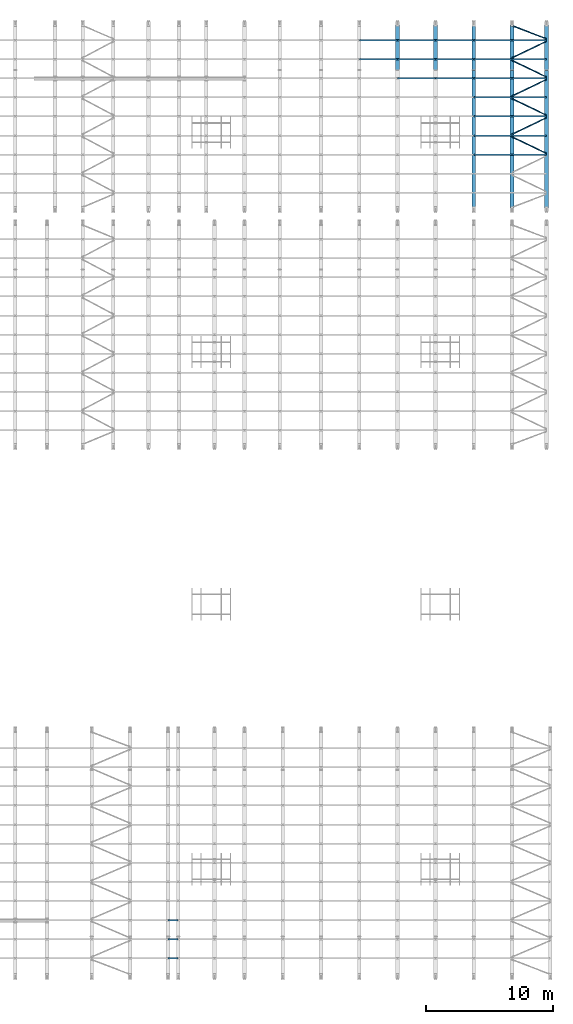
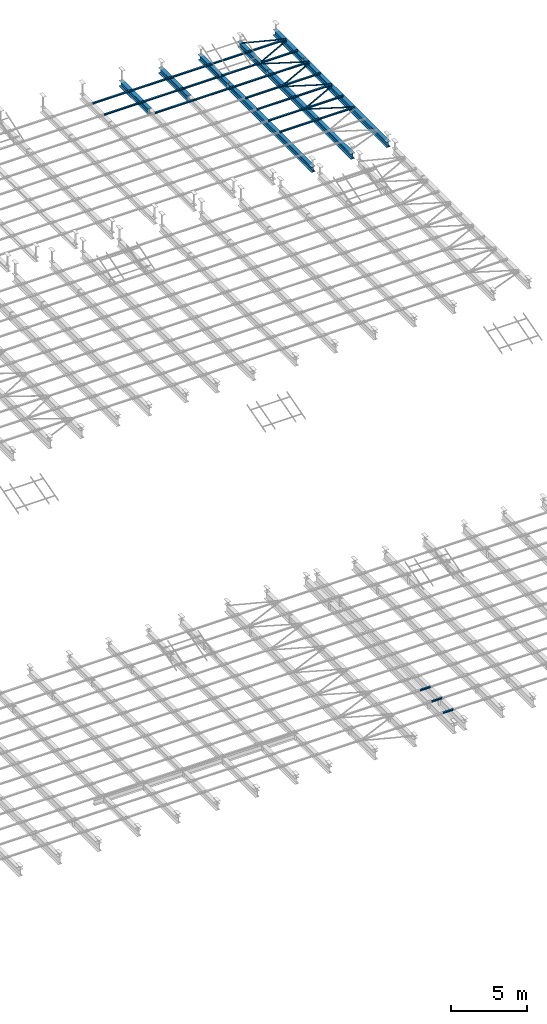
# One storey, part 86 of 139: 40 beams.
"""IFC2X3 building model written with IfcOpenShell, lengths in metres."""

import ifcopenshell
import ifcopenshell.guid

model = None  # the IFC model being written
_history = None  # IfcOwnerHistory: only IFC2X3 demands one
_inside = {}  # id of a spatial element -> (the spatial element, [elements in it])
_under = {}  # id of a project, library or spatial element -> (it, [spatial elements below it])
_declared = {}  # id of a project -> (the project, [libraries it declares])
_typed = {}  # id of a type object -> (the type object, [elements of that type])
_made_of = {}  # id of a material, layer set ... -> (it, [elements and type objects made of it])


def new_model(schema):
    """Start an empty IFC model of exactly this schema.

    Asked for "IFC4X3", IfcOpenShell would pick the latest addendum, in which some entities
    have other attributes; the version numbers below select the first issue.
    IFC2X3 requires an IfcOwnerHistory on every rooted entity: one is made here for all.
    """
    global model, _history
    if schema == "IFC4X3":
        model = ifcopenshell.file(schema_version=(4, 3, 0, 0))
    else:
        model = ifcopenshell.file(schema=schema)
    _inside.clear()
    _under.clear()
    _declared.clear()
    _typed.clear()
    _made_of.clear()
    _history = None
    if model.schema == "IFC2X3":
        org = make("IfcOrganization", Name="unknown")
        user = make(
            "IfcPersonAndOrganization",
            ThePerson=make("IfcPerson", FamilyName="unknown"),
            TheOrganization=org,
        )
        app = make(
            "IfcApplication",
            ApplicationDeveloper=org,
            Version="unknown",
            ApplicationFullName="unknown",
            ApplicationIdentifier="unknown",
        )
        _history = make(
            "IfcOwnerHistory",
            OwningUser=user,
            OwningApplication=app,
            ChangeAction="ADDED",
            CreationDate=0,
        )
    return model


def make(cls, **values):
    """One entity of the class cls with the attributes given. An attribute that is None is left unset."""
    return model.create_entity(
        cls, **{name: value for name, value in values.items() if value is not None}
    )


def entity(cls, *values):
    """Any entity or typed value of the class cls, its attributes in the order of the schema. None: left unset."""
    e = model.create_entity(cls)
    for i, value in enumerate(values):
        if value is not None:
            e[i] = value
    return e


def rooted(cls, **values):
    """An entity with a GlobalId (a new one), such as an element, a storey or a relation."""
    return make(cls, GlobalId=ifcopenshell.guid.new(), OwnerHistory=_history, **values)


def si_unit(unit_type, name, prefix=None):
    """IfcSIUnit, for example si_unit("LENGTHUNIT", "METRE", prefix="MILLI")."""
    return make("IfcSIUnit", UnitType=unit_type, Prefix=prefix, Name=name)


def converted_unit(unit_type, name, factor, base, dimensions=None, offset=None):
    """IfcConversionBasedUnit, such as the inch: factor (a typed value) times the base unit."""
    return make(
        "IfcConversionBasedUnit"
        if offset is None
        else "IfcConversionBasedUnitWithOffset",
        ConversionOffset=offset,
        Dimensions=None
        if dimensions is None
        else entity("IfcDimensionalExponents", *dimensions),
        UnitType=unit_type,
        Name=name,
        ConversionFactor=make(
            "IfcMeasureWithUnit", ValueComponent=factor, UnitComponent=base
        ),
    )


def derived_unit(unit_type, elements):
    """IfcDerivedUnit: a product of units, each with its exponent."""
    return make(
        "IfcDerivedUnit",
        Elements=[
            make("IfcDerivedUnitElement", Unit=unit, Exponent=power)
            for unit, power in elements
        ],
        UnitType=unit_type,
    )


def assignment(units):
    """IfcUnitAssignment: the units of a project."""
    return None if units is None else make("IfcUnitAssignment", Units=units)


def point(xyz):
    """IfcCartesianPoint."""
    return None if xyz is None else make("IfcCartesianPoint", Coordinates=xyz)


def direction(xyz):
    """IfcDirection."""
    return None if xyz is None else make("IfcDirection", DirectionRatios=xyz)


def frame(location, z_axis=None, x_axis=None):
    """IfcAxis2Placement3D, a coordinate frame: its origin and axes. An axis left out is left unset."""
    return make(
        "IfcAxis2Placement3D",
        Location=point(location),
        Axis=direction(z_axis),
        RefDirection=direction(x_axis),
    )


def origin():
    """The frame at (0, 0, 0) with its axes left unset."""
    return frame((0.0, 0.0, 0.0))


def place(relative_to, where):
    """IfcLocalPlacement: puts the frame where relative to a parent placement (None: the world)."""
    return make(
        "IfcLocalPlacement", PlacementRelTo=relative_to, RelativePlacement=where
    )


def context(
    kind, dimensions, precision=None, world=None, true_north=None, identifier=None
):
    """IfcGeometricRepresentationContext, for example the 3D "Model" context."""
    return make(
        "IfcGeometricRepresentationContext",
        ContextIdentifier=identifier,
        ContextType=kind,
        CoordinateSpaceDimension=dimensions,
        Precision=precision,
        WorldCoordinateSystem=world,
        TrueNorth=true_north,
    )


def subcontext(parent, identifier, kind, view, scale=None):
    """IfcGeometricRepresentationSubContext, for example "Body" below "Model"."""
    return make(
        "IfcGeometricRepresentationSubContext",
        ContextIdentifier=identifier,
        ContextType=kind,
        ParentContext=parent,
        TargetScale=scale,
        TargetView=view,
    )


def project(units=None, contexts=None):
    """IfcProject with its units and contexts."""
    return rooted(
        "IfcProject",
        Name="project",
        RepresentationContexts=contexts,
        UnitsInContext=assignment(units),
    )


def spatial(cls, under=None, at=None, **own):
    """A site, building, storey or space (cls), placed at a placement, below another one or the project."""
    s = rooted(cls, ObjectPlacement=at, **own)
    if under is not None:
        _under.setdefault(under.id(), (under, []))[1].append(s)
    return s


def polyline(points):
    """IfcPolyline through the points."""
    return make("IfcPolyline", Points=[point(p) for p in points])


def outline(outer, holes=None, kind="AREA"):
    """IfcArbitraryClosedProfileDef: a profile drawn as a closed curve; with holes, ...WithVoids."""
    if holes is None:
        return make("IfcArbitraryClosedProfileDef", ProfileType=kind, OuterCurve=outer)
    return make(
        "IfcArbitraryProfileDefWithVoids",
        ProfileType=kind,
        OuterCurve=outer,
        InnerCurves=holes,
    )


def extrude(swept, where, along, depth):
    """IfcExtrudedAreaSolid: the profile swept, set in the frame where, extruded along a direction by depth."""
    return make(
        "IfcExtrudedAreaSolid",
        SweptArea=swept,
        Position=where,
        ExtrudedDirection=direction(along),
        Depth=depth,
    )


def shape(context_of_items, identifier, shape_type, items):
    """IfcShapeRepresentation: the items that make up one representation, for example the "Body"."""
    return make(
        "IfcShapeRepresentation",
        ContextOfItems=context_of_items,
        RepresentationIdentifier=identifier,
        RepresentationType=shape_type,
        Items=items,
    )


def material(Name=None, Category=None):
    """IfcMaterial."""
    return make("IfcMaterial", Name=Name, Category=Category)


def made_of(thing, what):
    """Note that an element or type object is made of a material, layer set ...; save() writes the relation."""
    if what is not None:
        _made_of.setdefault(what.id(), (what, []))[1].append(thing)
    return thing


def element(
    cls,
    number,
    at=None,
    inside=None,
    cuts=None,
    type_object=None,
    material=None,
    context=None,
    identifier="Body",
    shape_type=None,
    held_by="IfcProductDefinitionShape",
    body=None,
    shapes=None,
    **own,
):
    """One element of the class cls, such as IfcWall. Its Tag is "e" and its number.

    at: its placement. inside: the storey or other place that contains it. cuts: it is an
    opening in that element (IfcRelVoidsElement). A single representation is given by context,
    identifier, shape_type and body (its items); several are given by shapes. held_by: the class
    of the entity that holds the representations. save() writes the other relations.
    """
    e = rooted(cls, Tag="e%d" % number, ObjectPlacement=at, **own)
    if body is not None:
        shapes = [shape(context, identifier, shape_type, body)]
    if shapes is not None:
        e.Representation = make(held_by, Representations=shapes)
    if inside is not None:
        _inside.setdefault(inside.id(), (inside, []))[1].append(e)
    if cuts is not None:
        rooted(
            "IfcRelVoidsElement", RelatingBuildingElement=cuts, RelatedOpeningElement=e
        )
    if type_object is not None:
        _typed.setdefault(type_object.id(), (type_object, []))[1].append(e)
    return made_of(e, material)


def aggregate(whole, parts):
    """IfcRelAggregates: a whole, such as a stair, and the parts it consists of."""
    return rooted("IfcRelAggregates", RelatingObject=whole, RelatedObjects=parts)


def save(model, path):
    """Write the relations noted so far, then the file.

    IfcRelAggregates (storeys below a building ...), IfcRelContainedInSpatialStructure (elements
    in a storey), IfcRelDefinesByType, IfcRelAssociatesMaterial and IfcRelDeclares: one each for
    every whole, place, type object, material and project.
    """
    for whole, parts in _under.values():
        aggregate(whole, parts)
    for where, things in _inside.values():
        rooted(
            "IfcRelContainedInSpatialStructure",
            RelatedElements=things,
            RelatingStructure=where,
        )
    for kind, things in _typed.values():
        rooted("IfcRelDefinesByType", RelatedObjects=things, RelatingType=kind)
    for what, things in _made_of.values():
        rooted("IfcRelAssociatesMaterial", RelatedObjects=things, RelatingMaterial=what)
    for by, libraries in _declared.values():
        rooted("IfcRelDeclares", RelatingContext=by, RelatedDefinitions=libraries)
    model.write(path)


model = new_model("IFC2X3")

# Units and contexts
model_context = context("Model", 3, precision=1e-05, world=origin())
body_context = subcontext(model_context, "Body", "Model", "MODEL_VIEW")
ifc_project = project(units=[si_unit("LENGTHUNIT", "METRE"), si_unit("AREAUNIT", "SQUARE_METRE"), si_unit("VOLUMEUNIT", "CUBIC_METRE"), si_unit("MASSUNIT", "GRAM", prefix="KILO"), converted_unit("PLANEANGLEUNIT", "DEGREE", entity("IfcPlaneAngleMeasure", 0.0174532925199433), si_unit("PLANEANGLEUNIT", "RADIAN"), dimensions=[0, 0, 0, 0, 0, 0, 0]), derived_unit("THERMALTRANSMITTANCEUNIT", [(si_unit("POWERUNIT", "WATT"), 1), (si_unit("THERMODYNAMICTEMPERATUREUNIT", "KELVIN"), -1), (si_unit("LENGTHUNIT", "METRE"), -2)]), derived_unit("VOLUMETRICFLOWRATEUNIT", [(si_unit("LENGTHUNIT", "METRE"), 3), (converted_unit("TIMEUNIT", "hour", entity("IfcTimeMeasure", 3600.0), si_unit("TIMEUNIT", "SECOND"), dimensions=[0, 0, 1, 0, 0, 0, 0]), -1), (si_unit("LENGTHUNIT", "METRE"), -1)])], contexts=[model_context])

# Site, building, storey
site_placement = place(None, origin())
site = spatial("IfcSite", under=ifc_project, at=site_placement, Name="TWP_Speiseverteilzentrum SBW VZ II", CompositionType="ELEMENT")
building_placement = place(site_placement, origin())
building = spatial("IfcBuilding", under=site, at=building_placement, Name="Speiseverteilzentrum SBW VZ II", CompositionType="ELEMENT")
storey_placement = place(building_placement, frame((0.0, 0.0, 7.1307)))
storey = spatial("IfcBuildingStorey", under=building, at=storey_placement, Name="Wartung_FFB", CompositionType="ELEMENT", Elevation=7.1307)

# Beams
ifc_material_1 = material(Name="S235")
beam_1_placement = place(storey_placement, frame((109.050000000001, 81.8930000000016, -0.41), z_axis=(0.0, 0.0, 1.0), x_axis=(1.0, -2.44929359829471e-16, 0.0)))
element("IfcBeam", 1, at=beam_1_placement, inside=storey, material=ifc_material_1, Name="Stahlträger", context=body_context, shape_type="SweptSolid", body=[
    extrude(outline(polyline([(-0.15, 0.22), (-0.15, 0.199), (-0.00574999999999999, 0.199), (-0.00575000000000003, -0.199), (-0.15, -0.199), (-0.15, -0.22), (0.15, -0.22), (0.15, -0.199), (0.00574999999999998, -0.199), (0.00575000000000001, 0.199), (0.15, 0.199), (0.15, 0.22), (-0.15, 0.22)])), frame((0.0, 0.0, 0.0), z_axis=(0.0, 1.0, 0.0), x_axis=(-1.0, 0.0, 0.0)), (0.0, 0.0, 1.0), 3.80699999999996),
])
ifc_material_2 = material(Name="S235")
beam_2_placement = place(storey_placement, frame((112.050000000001, 81.8930000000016, -0.41), z_axis=(0.0, 0.0, 1.0), x_axis=(1.0, -2.44929359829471e-16, 0.0)))
element("IfcBeam", 2, at=beam_2_placement, inside=storey, material=ifc_material_2, Name="Stahlträger", context=body_context, shape_type="SweptSolid", body=[
    extrude(outline(polyline([(-0.15, 0.22), (-0.15, 0.199), (-0.00574999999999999, 0.199), (-0.00575000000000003, -0.199), (-0.15, -0.199), (-0.15, -0.22), (0.15, -0.22), (0.15, -0.199), (0.00574999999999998, -0.199), (0.00575000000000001, 0.199), (0.15, 0.199), (0.15, 0.22), (-0.15, 0.22)])), frame((0.0, 0.0, 0.0), z_axis=(0.0, 1.0, 0.0), x_axis=(-1.0, 0.0, 0.0)), (0.0, 0.0, 1.0), 3.80699999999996),
])
ifc_material_3 = material(Name="S235")
beam_3_placement = place(storey_placement, frame((115.050000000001, 81.8930000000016, -0.41), z_axis=(0.0, 0.0, 1.0), x_axis=(1.0, -2.44929359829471e-16, 0.0)))
element("IfcBeam", 3, at=beam_3_placement, inside=storey, material=ifc_material_3, Name="Stahlträger", context=body_context, shape_type="SweptSolid", body=[
    extrude(outline(polyline([(-0.15, 0.22), (-0.15, 0.199), (-0.00574999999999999, 0.199), (-0.00575000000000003, -0.199), (-0.15, -0.199), (-0.15, -0.22), (0.15, -0.22), (0.15, -0.199), (0.00574999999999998, -0.199), (0.00575000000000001, 0.199), (0.15, 0.199), (0.15, 0.22), (-0.15, 0.22)])), frame((0.0, 0.0, 0.0), z_axis=(0.0, 1.0, 0.0), x_axis=(-1.0, 0.0, 0.0)), (0.0, 0.0, 1.0), 3.80699999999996),
])
ifc_material_4 = material(Name="S235")
beam_4_placement = place(storey_placement, frame((118.050000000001, 81.8930000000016, -0.41), z_axis=(0.0, 0.0, 1.0), x_axis=(1.0, -2.44929359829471e-16, 0.0)))
element("IfcBeam", 4, at=beam_4_placement, inside=storey, material=ifc_material_4, Name="Stahlträger", context=body_context, shape_type="SweptSolid", body=[
    extrude(outline(polyline([(-0.15, 0.22), (-0.15, 0.199), (-0.00574999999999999, 0.199), (-0.00575000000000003, -0.199), (-0.15, -0.199), (-0.15, -0.22), (0.15, -0.22), (0.15, -0.199), (0.00574999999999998, -0.199), (0.00575000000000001, 0.199), (0.15, 0.199), (0.15, 0.22), (-0.15, 0.22)])), frame((0.0, 0.0, 0.0), z_axis=(0.0, 1.0, 0.0), x_axis=(-1.0, 0.0, 0.0)), (0.0, 0.0, 1.0), 3.80699999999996),
])
ifc_material_5 = material(Name="S235")
beam_5_placement = place(storey_placement, frame((120.750000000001, 81.8930000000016, -0.41), z_axis=(0.0, 0.0, 1.0), x_axis=(1.0, -2.44929359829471e-16, 0.0)))
element("IfcBeam", 5, at=beam_5_placement, inside=storey, material=ifc_material_5, Name="Stahlträger", context=body_context, shape_type="SweptSolid", body=[
    extrude(outline(polyline([(-0.15, 0.22), (-0.15, 0.199), (-0.00574999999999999, 0.199), (-0.00575000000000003, -0.199), (-0.15, -0.199), (-0.15, -0.22), (0.15, -0.22), (0.15, -0.199), (0.00574999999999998, -0.199), (0.00575000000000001, 0.199), (0.15, 0.199), (0.15, 0.22), (-0.15, 0.22)])), frame((0.0, 0.0, 0.0), z_axis=(0.0, 1.0, 0.0), x_axis=(-1.0, 0.0, 0.0)), (0.0, 0.0, 1.0), 3.80699999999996),
])
ifc_material_6 = material(Name="S235")
beam_6_placement = place(storey_placement, frame((115.050000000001, 70.7522526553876, -0.41), z_axis=(0.0, 0.0, 1.0), x_axis=(1.0, -2.44929359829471e-16, 0.0)))
element("IfcBeam", 6, at=beam_6_placement, inside=storey, material=ifc_material_6, Name="Stahlträger", context=body_context, shape_type="SweptSolid", body=[
    extrude(outline(polyline([(-0.15, 0.22), (-0.15, 0.199), (-0.00574999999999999, 0.199), (-0.00575000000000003, -0.199), (-0.15, -0.199), (-0.15, -0.22), (0.15, -0.22), (0.15, -0.199), (0.00574999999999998, -0.199), (0.00575000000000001, 0.199), (0.15, 0.199), (0.15, 0.22), (-0.15, 0.22)])), frame((0.0, 0.0, 0.0), z_axis=(0.0, 1.0, 0.0), x_axis=(-1.0, 0.0, 0.0)), (0.0, 0.0, 1.0), 11.090747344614),
])
ifc_material_7 = material(Name="S235")
beam_7_placement = place(storey_placement, frame((118.050000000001, 70.7522526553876, -0.41), z_axis=(0.0, 0.0, 1.0), x_axis=(1.0, -2.44929359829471e-16, 0.0)))
element("IfcBeam", 7, at=beam_7_placement, inside=storey, material=ifc_material_7, Name="Stahlträger", context=body_context, shape_type="SweptSolid", body=[
    extrude(outline(polyline([(-0.15, 0.22), (-0.15, 0.199), (-0.00574999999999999, 0.199), (-0.00575000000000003, -0.199), (-0.15, -0.199), (-0.15, -0.22), (0.15, -0.22), (0.15, -0.199), (0.00574999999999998, -0.199), (0.00575000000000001, 0.199), (0.15, 0.199), (0.15, 0.22), (-0.15, 0.22)])), frame((0.0, 0.0, 0.0), z_axis=(0.0, 1.0, 0.0), x_axis=(-1.0, 0.0, 0.0)), (0.0, 0.0, 1.0), 11.090747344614),
])
ifc_material_8 = material(Name="S235")
beam_8_placement = place(storey_placement, frame((120.750000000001, 70.7522526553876, -0.41), z_axis=(0.0, 0.0, 1.0), x_axis=(1.0, -2.44929359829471e-16, 0.0)))
element("IfcBeam", 8, at=beam_8_placement, inside=storey, material=ifc_material_8, Name="Stahlträger", context=body_context, shape_type="SweptSolid", body=[
    extrude(outline(polyline([(-0.15, 0.22), (-0.15, 0.199), (-0.00574999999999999, 0.199), (-0.00575000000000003, -0.199), (-0.15, -0.199), (-0.15, -0.22), (0.15, -0.22), (0.15, -0.199), (0.00574999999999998, -0.199), (0.00575000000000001, 0.199), (0.15, 0.199), (0.15, 0.22), (-0.15, 0.22)])), frame((0.0, 0.0, 0.0), z_axis=(0.0, 1.0, 0.0), x_axis=(-1.0, 0.0, 0.0)), (0.0, 0.0, 1.0), 11.090747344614),
])
ifc_material_9 = material(Name="S235")
beam_9_placement = place(storey_placement, frame((106.060000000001, 84.2261263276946, -0.133), z_axis=(0.0, 0.0, 1.0), x_axis=(0.0, -1.0, 0.0)))
element("IfcBeam", 9, at=beam_9_placement, inside=storey, material=ifc_material_9, Name="Nebenträger", context=body_context, shape_type="SweptSolid", body=[
    extrude(outline(polyline([(-0.06, 0.0570000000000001), (-0.06, 0.0490000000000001), (-0.00249999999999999, 0.0490000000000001), (-0.0025, -0.0489999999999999), (-0.06, -0.0489999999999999), (-0.06, -0.0569999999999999), (0.06, -0.0569999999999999), (0.06, -0.0489999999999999), (0.0025, -0.0489999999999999), (0.00250000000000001, 0.0490000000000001), (0.06, 0.0490000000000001), (0.06, 0.0570000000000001), (-0.06, 0.0570000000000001)])), frame((0.0, 0.0, 0.0), z_axis=(0.0, 1.0, 0.0), x_axis=(-1.0, 0.0, 0.0)), (0.0, 0.0, 1.0), 2.98),
])
ifc_material_10 = material(Name="S235")
beam_10_placement = place(storey_placement, frame((109.060000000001, 84.2261263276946, -0.133), z_axis=(0.0, 0.0, 1.0), x_axis=(0.0, -1.0, 0.0)))
element("IfcBeam", 10, at=beam_10_placement, inside=storey, material=ifc_material_10, Name="Nebenträger", context=body_context, shape_type="SweptSolid", body=[
    extrude(outline(polyline([(-0.06, 0.0570000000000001), (-0.06, 0.0490000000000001), (-0.00249999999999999, 0.0490000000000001), (-0.0025, -0.0489999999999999), (-0.06, -0.0489999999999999), (-0.06, -0.0569999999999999), (0.06, -0.0569999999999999), (0.06, -0.0489999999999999), (0.0025, -0.0489999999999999), (0.00250000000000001, 0.0490000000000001), (0.06, 0.0490000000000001), (0.06, 0.0570000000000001), (-0.06, 0.0570000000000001)])), frame((0.0, 0.0, 0.0), z_axis=(0.0, 1.0, 0.0), x_axis=(-1.0, 0.0, 0.0)), (0.0, 0.0, 1.0), 2.98),
])
ifc_material_11 = material(Name="S235")
beam_11_placement = place(storey_placement, frame((112.060000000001, 84.2261263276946, -0.133), z_axis=(0.0, 0.0, 1.0), x_axis=(0.0, -1.0, 0.0)))
element("IfcBeam", 11, at=beam_11_placement, inside=storey, material=ifc_material_11, Name="Nebenträger", context=body_context, shape_type="SweptSolid", body=[
    extrude(outline(polyline([(-0.06, 0.0570000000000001), (-0.06, 0.0490000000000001), (-0.00249999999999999, 0.0490000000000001), (-0.0025, -0.0489999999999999), (-0.06, -0.0489999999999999), (-0.06, -0.0569999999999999), (0.06, -0.0569999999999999), (0.06, -0.0489999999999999), (0.0025, -0.0489999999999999), (0.00250000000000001, 0.0490000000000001), (0.06, 0.0490000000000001), (0.06, 0.0570000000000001), (-0.06, 0.0570000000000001)])), frame((0.0, 0.0, 0.0), z_axis=(0.0, 1.0, 0.0), x_axis=(-1.0, 0.0, 0.0)), (0.0, 0.0, 1.0), 2.98),
])
ifc_material_12 = material(Name="S235")
beam_12_placement = place(storey_placement, frame((115.060000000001, 84.2261263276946, -0.133), z_axis=(0.0, 0.0, 1.0), x_axis=(0.0, -1.0, 0.0)))
element("IfcBeam", 12, at=beam_12_placement, inside=storey, material=ifc_material_12, Name="Nebenträger", context=body_context, shape_type="SweptSolid", body=[
    extrude(outline(polyline([(-0.06, 0.0570000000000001), (-0.06, 0.0490000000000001), (-0.00249999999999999, 0.0490000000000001), (-0.0025, -0.0489999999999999), (-0.06, -0.0489999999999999), (-0.06, -0.0569999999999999), (0.06, -0.0569999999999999), (0.06, -0.0489999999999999), (0.0025, -0.0489999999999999), (0.00250000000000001, 0.0490000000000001), (0.06, 0.0490000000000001), (0.06, 0.0570000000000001), (-0.06, 0.0570000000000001)])), frame((0.0, 0.0, 0.0), z_axis=(0.0, 1.0, 0.0), x_axis=(-1.0, 0.0, 0.0)), (0.0, 0.0, 1.0), 2.98),
])
ifc_material_13 = material(Name="S235")
beam_13_placement = place(storey_placement, frame((106.060000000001, 82.7261263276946, -0.133), z_axis=(0.0, 0.0, 1.0), x_axis=(0.0, -1.0, 0.0)))
element("IfcBeam", 13, at=beam_13_placement, inside=storey, material=ifc_material_13, Name="Nebenträger", context=body_context, shape_type="SweptSolid", body=[
    extrude(outline(polyline([(-0.06, 0.0570000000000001), (-0.06, 0.0490000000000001), (-0.00249999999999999, 0.0490000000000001), (-0.0025, -0.0489999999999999), (-0.06, -0.0489999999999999), (-0.06, -0.0569999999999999), (0.06, -0.0569999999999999), (0.06, -0.0489999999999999), (0.0025, -0.0489999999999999), (0.00250000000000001, 0.0490000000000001), (0.06, 0.0490000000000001), (0.06, 0.0570000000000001), (-0.06, 0.0570000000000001)])), frame((0.0, 0.0, 0.0), z_axis=(0.0, 1.0, 0.0), x_axis=(-1.0, 0.0, 0.0)), (0.0, 0.0, 1.0), 2.98),
])
ifc_material_14 = material(Name="S235")
beam_14_placement = place(storey_placement, frame((109.060000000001, 82.7261263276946, -0.133), z_axis=(0.0, 0.0, 1.0), x_axis=(0.0, -1.0, 0.0)))
element("IfcBeam", 14, at=beam_14_placement, inside=storey, material=ifc_material_14, Name="Nebenträger", context=body_context, shape_type="SweptSolid", body=[
    extrude(outline(polyline([(-0.06, 0.0570000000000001), (-0.06, 0.0490000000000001), (-0.00249999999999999, 0.0490000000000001), (-0.0025, -0.0489999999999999), (-0.06, -0.0489999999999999), (-0.06, -0.0569999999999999), (0.06, -0.0569999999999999), (0.06, -0.0489999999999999), (0.0025, -0.0489999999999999), (0.00250000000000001, 0.0490000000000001), (0.06, 0.0490000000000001), (0.06, 0.0570000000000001), (-0.06, 0.0570000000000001)])), frame((0.0, 0.0, 0.0), z_axis=(0.0, 1.0, 0.0), x_axis=(-1.0, 0.0, 0.0)), (0.0, 0.0, 1.0), 2.98),
])
ifc_material_15 = material(Name="S235")
beam_15_placement = place(storey_placement, frame((112.060000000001, 82.7261263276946, -0.133), z_axis=(0.0, 0.0, 1.0), x_axis=(0.0, -1.0, 0.0)))
element("IfcBeam", 15, at=beam_15_placement, inside=storey, material=ifc_material_15, Name="Nebenträger", context=body_context, shape_type="SweptSolid", body=[
    extrude(outline(polyline([(-0.06, 0.0570000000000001), (-0.06, 0.0490000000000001), (-0.00249999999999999, 0.0490000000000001), (-0.0025, -0.0489999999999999), (-0.06, -0.0489999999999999), (-0.06, -0.0569999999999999), (0.06, -0.0569999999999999), (0.06, -0.0489999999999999), (0.0025, -0.0489999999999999), (0.00250000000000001, 0.0490000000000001), (0.06, 0.0490000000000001), (0.06, 0.0570000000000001), (-0.06, 0.0570000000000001)])), frame((0.0, 0.0, 0.0), z_axis=(0.0, 1.0, 0.0), x_axis=(-1.0, 0.0, 0.0)), (0.0, 0.0, 1.0), 2.98),
])
ifc_material_16 = material(Name="S235")
beam_16_placement = place(storey_placement, frame((115.060000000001, 82.7261263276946, -0.133), z_axis=(0.0, 0.0, 1.0), x_axis=(0.0, -1.0, 0.0)))
element("IfcBeam", 16, at=beam_16_placement, inside=storey, material=ifc_material_16, Name="Nebenträger", context=body_context, shape_type="SweptSolid", body=[
    extrude(outline(polyline([(-0.06, 0.0570000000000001), (-0.06, 0.0490000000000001), (-0.00249999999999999, 0.0490000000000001), (-0.0025, -0.0489999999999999), (-0.06, -0.0489999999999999), (-0.06, -0.0569999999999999), (0.06, -0.0569999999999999), (0.06, -0.0489999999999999), (0.0025, -0.0489999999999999), (0.00250000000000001, 0.0490000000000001), (0.06, 0.0490000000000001), (0.06, 0.0570000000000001), (-0.06, 0.0570000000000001)])), frame((0.0, 0.0, 0.0), z_axis=(0.0, 1.0, 0.0), x_axis=(-1.0, 0.0, 0.0)), (0.0, 0.0, 1.0), 2.98),
])
ifc_material_17 = material(Name="S235")
beam_17_placement = place(storey_placement, frame((109.060000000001, 81.2261263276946, -0.133), z_axis=(0.0, 0.0, 1.0), x_axis=(0.0, -1.0, 0.0)))
element("IfcBeam", 17, at=beam_17_placement, inside=storey, material=ifc_material_17, Name="Nebenträger", context=body_context, shape_type="SweptSolid", body=[
    extrude(outline(polyline([(-0.06, 0.0570000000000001), (-0.06, 0.0490000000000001), (-0.00249999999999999, 0.0490000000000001), (-0.0025, -0.0489999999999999), (-0.06, -0.0489999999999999), (-0.06, -0.0569999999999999), (0.06, -0.0569999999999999), (0.06, -0.0489999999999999), (0.0025, -0.0489999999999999), (0.00250000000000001, 0.0490000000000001), (0.06, 0.0490000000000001), (0.06, 0.0570000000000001), (-0.06, 0.0570000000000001)])), frame((0.0, 0.0, 0.0), z_axis=(0.0, 1.0, 0.0), x_axis=(-1.0, 0.0, 0.0)), (0.0, 0.0, 1.0), 2.98),
])
ifc_material_18 = material(Name="S235")
beam_18_placement = place(storey_placement, frame((112.060000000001, 81.2261263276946, -0.133), z_axis=(0.0, 0.0, 1.0), x_axis=(0.0, -1.0, 0.0)))
element("IfcBeam", 18, at=beam_18_placement, inside=storey, material=ifc_material_18, Name="Nebenträger", context=body_context, shape_type="SweptSolid", body=[
    extrude(outline(polyline([(-0.06, 0.0570000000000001), (-0.06, 0.0490000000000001), (-0.00249999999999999, 0.0490000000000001), (-0.0025, -0.0489999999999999), (-0.06, -0.0489999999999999), (-0.06, -0.0569999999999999), (0.06, -0.0569999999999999), (0.06, -0.0489999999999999), (0.0025, -0.0489999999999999), (0.00250000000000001, 0.0490000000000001), (0.06, 0.0490000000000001), (0.06, 0.0570000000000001), (-0.06, 0.0570000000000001)])), frame((0.0, 0.0, 0.0), z_axis=(0.0, 1.0, 0.0), x_axis=(-1.0, 0.0, 0.0)), (0.0, 0.0, 1.0), 2.98),
])
ifc_material_19 = material(Name="S235")
beam_19_placement = place(storey_placement, frame((115.060000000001, 81.2261263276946, -0.133), z_axis=(0.0, 0.0, 1.0), x_axis=(0.0, -1.0, 0.0)))
element("IfcBeam", 19, at=beam_19_placement, inside=storey, material=ifc_material_19, Name="Nebenträger", context=body_context, shape_type="SweptSolid", body=[
    extrude(outline(polyline([(-0.06, 0.0570000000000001), (-0.06, 0.0490000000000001), (-0.00249999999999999, 0.0490000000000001), (-0.0025, -0.0489999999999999), (-0.06, -0.0489999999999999), (-0.06, -0.0569999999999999), (0.06, -0.0569999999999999), (0.06, -0.0489999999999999), (0.0025, -0.0489999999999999), (0.00250000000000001, 0.0490000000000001), (0.06, 0.0490000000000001), (0.06, 0.0570000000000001), (-0.06, 0.0570000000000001)])), frame((0.0, 0.0, 0.0), z_axis=(0.0, 1.0, 0.0), x_axis=(-1.0, 0.0, 0.0)), (0.0, 0.0, 1.0), 2.98),
])
ifc_material_20 = material(Name="S235")
beam_20_placement = place(storey_placement, frame((115.060000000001, 79.7261263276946, -0.133), z_axis=(0.0, 0.0, 1.0), x_axis=(0.0, -1.0, 0.0)))
element("IfcBeam", 20, at=beam_20_placement, inside=storey, material=ifc_material_20, Name="Nebenträger", context=body_context, shape_type="SweptSolid", body=[
    extrude(outline(polyline([(-0.06, 0.0570000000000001), (-0.06, 0.0490000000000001), (-0.00249999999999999, 0.0490000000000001), (-0.0025, -0.0489999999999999), (-0.06, -0.0489999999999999), (-0.06, -0.0569999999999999), (0.06, -0.0569999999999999), (0.06, -0.0489999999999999), (0.0025, -0.0489999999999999), (0.00250000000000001, 0.0490000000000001), (0.06, 0.0490000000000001), (0.06, 0.0570000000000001), (-0.06, 0.0570000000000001)])), frame((0.0, 0.0, 0.0), z_axis=(0.0, 1.0, 0.0), x_axis=(-1.0, 0.0, 0.0)), (0.0, 0.0, 1.0), 2.98),
])
ifc_material_21 = material(Name="S235")
beam_21_placement = place(storey_placement, frame((115.060000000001, 78.2261263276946, -0.133), z_axis=(0.0, 0.0, 1.0), x_axis=(0.0, -1.0, 0.0)))
element("IfcBeam", 21, at=beam_21_placement, inside=storey, material=ifc_material_21, Name="Nebenträger", context=body_context, shape_type="SweptSolid", body=[
    extrude(outline(polyline([(-0.06, 0.0570000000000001), (-0.06, 0.0490000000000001), (-0.00249999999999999, 0.0490000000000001), (-0.0025, -0.0489999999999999), (-0.06, -0.0489999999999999), (-0.06, -0.0569999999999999), (0.06, -0.0569999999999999), (0.06, -0.0489999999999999), (0.0025, -0.0489999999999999), (0.00250000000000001, 0.0490000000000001), (0.06, 0.0490000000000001), (0.06, 0.0570000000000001), (-0.06, 0.0570000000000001)])), frame((0.0, 0.0, 0.0), z_axis=(0.0, 1.0, 0.0), x_axis=(-1.0, 0.0, 0.0)), (0.0, 0.0, 1.0), 2.98),
])
ifc_material_22 = material(Name="S235")
beam_22_placement = place(storey_placement, frame((115.060000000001, 76.7261263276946, -0.133), z_axis=(0.0, 0.0, 1.0), x_axis=(0.0, -1.0, 0.0)))
element("IfcBeam", 22, at=beam_22_placement, inside=storey, material=ifc_material_22, Name="Nebenträger", context=body_context, shape_type="SweptSolid", body=[
    extrude(outline(polyline([(-0.06, 0.0570000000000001), (-0.06, 0.0490000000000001), (-0.00249999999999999, 0.0490000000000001), (-0.0025, -0.0489999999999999), (-0.06, -0.0489999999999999), (-0.06, -0.0569999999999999), (0.06, -0.0569999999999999), (0.06, -0.0489999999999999), (0.0025, -0.0489999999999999), (0.00250000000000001, 0.0490000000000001), (0.06, 0.0490000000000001), (0.06, 0.0570000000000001), (-0.06, 0.0570000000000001)])), frame((0.0, 0.0, 0.0), z_axis=(0.0, 1.0, 0.0), x_axis=(-1.0, 0.0, 0.0)), (0.0, 0.0, 1.0), 2.98),
])
ifc_material_23 = material(Name="S235")
beam_23_placement = place(storey_placement, frame((115.060000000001, 75.2261263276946, -0.133), z_axis=(0.0, 0.0, 1.0), x_axis=(0.0, -1.0, 0.0)))
element("IfcBeam", 23, at=beam_23_placement, inside=storey, material=ifc_material_23, Name="Nebenträger", context=body_context, shape_type="SweptSolid", body=[
    extrude(outline(polyline([(-0.06, 0.0570000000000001), (-0.06, 0.0490000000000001), (-0.00249999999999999, 0.0490000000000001), (-0.0025, -0.0489999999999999), (-0.06, -0.0489999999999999), (-0.06, -0.0569999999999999), (0.06, -0.0569999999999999), (0.06, -0.0489999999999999), (0.0025, -0.0489999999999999), (0.00250000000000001, 0.0490000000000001), (0.06, 0.0490000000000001), (0.06, 0.0570000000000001), (-0.06, 0.0570000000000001)])), frame((0.0, 0.0, 0.0), z_axis=(0.0, 1.0, 0.0), x_axis=(-1.0, 0.0, 0.0)), (0.0, 0.0, 1.0), 2.98),
])
ifc_material_24 = material(Name="S235")
beam_24_placement = place(storey_placement, frame((118.060000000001, 84.2261263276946, -0.133), z_axis=(0.0, 0.0, 1.0), x_axis=(0.0, -1.0, 0.0)))
element("IfcBeam", 24, at=beam_24_placement, inside=storey, material=ifc_material_24, Name="Nebenträger", context=body_context, shape_type="SweptSolid", body=[
    extrude(outline(polyline([(-0.06, 0.0570000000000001), (-0.06, 0.0490000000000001), (-0.00249999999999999, 0.0490000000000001), (-0.0025, -0.0489999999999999), (-0.06, -0.0489999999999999), (-0.06, -0.0569999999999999), (0.06, -0.0569999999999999), (0.06, -0.0489999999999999), (0.0025, -0.0489999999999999), (0.00250000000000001, 0.0490000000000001), (0.06, 0.0490000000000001), (0.06, 0.0570000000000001), (-0.06, 0.0570000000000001)])), frame((0.0, 0.0, 0.0), z_axis=(0.0, 1.0, 0.0), x_axis=(-1.0, 0.0, 0.0)), (0.0, 0.0, 1.0), 2.69),
])
ifc_material_25 = material(Name="S235")
beam_25_placement = place(storey_placement, frame((118.060000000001, 82.7261263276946, -0.133), z_axis=(0.0, 0.0, 1.0), x_axis=(0.0, -1.0, 0.0)))
element("IfcBeam", 25, at=beam_25_placement, inside=storey, material=ifc_material_25, Name="Nebenträger", context=body_context, shape_type="SweptSolid", body=[
    extrude(outline(polyline([(-0.06, 0.0570000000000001), (-0.06, 0.0490000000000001), (-0.00249999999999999, 0.0490000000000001), (-0.0025, -0.0489999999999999), (-0.06, -0.0489999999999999), (-0.06, -0.0569999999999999), (0.06, -0.0569999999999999), (0.06, -0.0489999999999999), (0.0025, -0.0489999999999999), (0.00250000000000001, 0.0490000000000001), (0.06, 0.0490000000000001), (0.06, 0.0570000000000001), (-0.06, 0.0570000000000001)])), frame((0.0, 0.0, 0.0), z_axis=(0.0, 1.0, 0.0), x_axis=(-1.0, 0.0, 0.0)), (0.0, 0.0, 1.0), 2.69),
])
ifc_material_26 = material(Name="S235")
beam_26_placement = place(storey_placement, frame((118.060000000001, 81.2261263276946, -0.133), z_axis=(0.0, 0.0, 1.0), x_axis=(0.0, -1.0, 0.0)))
element("IfcBeam", 26, at=beam_26_placement, inside=storey, material=ifc_material_26, Name="Nebenträger", context=body_context, shape_type="SweptSolid", body=[
    extrude(outline(polyline([(-0.06, 0.0570000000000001), (-0.06, 0.0490000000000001), (-0.00249999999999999, 0.0490000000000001), (-0.0025, -0.0489999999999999), (-0.06, -0.0489999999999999), (-0.06, -0.0569999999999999), (0.06, -0.0569999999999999), (0.06, -0.0489999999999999), (0.0025, -0.0489999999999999), (0.00250000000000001, 0.0490000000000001), (0.06, 0.0490000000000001), (0.06, 0.0570000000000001), (-0.06, 0.0570000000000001)])), frame((0.0, 0.0, 0.0), z_axis=(0.0, 1.0, 0.0), x_axis=(-1.0, 0.0, 0.0)), (0.0, 0.0, 1.0), 2.69),
])
ifc_material_27 = material(Name="S235")
beam_27_placement = place(storey_placement, frame((118.060000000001, 79.7261263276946, -0.133), z_axis=(0.0, 0.0, 1.0), x_axis=(0.0, -1.0, 0.0)))
element("IfcBeam", 27, at=beam_27_placement, inside=storey, material=ifc_material_27, Name="Nebenträger", context=body_context, shape_type="SweptSolid", body=[
    extrude(outline(polyline([(-0.06, 0.0570000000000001), (-0.06, 0.0490000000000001), (-0.00249999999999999, 0.0490000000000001), (-0.0025, -0.0489999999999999), (-0.06, -0.0489999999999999), (-0.06, -0.0569999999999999), (0.06, -0.0569999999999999), (0.06, -0.0489999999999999), (0.0025, -0.0489999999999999), (0.00250000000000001, 0.0490000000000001), (0.06, 0.0490000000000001), (0.06, 0.0570000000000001), (-0.06, 0.0570000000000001)])), frame((0.0, 0.0, 0.0), z_axis=(0.0, 1.0, 0.0), x_axis=(-1.0, 0.0, 0.0)), (0.0, 0.0, 1.0), 2.69),
])
ifc_material_28 = material(Name="S235")
beam_28_placement = place(storey_placement, frame((118.060000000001, 78.2261263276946, -0.133), z_axis=(0.0, 0.0, 1.0), x_axis=(0.0, -1.0, 0.0)))
element("IfcBeam", 28, at=beam_28_placement, inside=storey, material=ifc_material_28, Name="Nebenträger", context=body_context, shape_type="SweptSolid", body=[
    extrude(outline(polyline([(-0.06, 0.0570000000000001), (-0.06, 0.0490000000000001), (-0.00249999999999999, 0.0490000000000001), (-0.0025, -0.0489999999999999), (-0.06, -0.0489999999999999), (-0.06, -0.0569999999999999), (0.06, -0.0569999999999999), (0.06, -0.0489999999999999), (0.0025, -0.0489999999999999), (0.00250000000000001, 0.0490000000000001), (0.06, 0.0490000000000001), (0.06, 0.0570000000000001), (-0.06, 0.0570000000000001)])), frame((0.0, 0.0, 0.0), z_axis=(0.0, 1.0, 0.0), x_axis=(-1.0, 0.0, 0.0)), (0.0, 0.0, 1.0), 2.69),
])
ifc_material_29 = material(Name="S235")
beam_29_placement = place(storey_placement, frame((118.060000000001, 76.7261263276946, -0.133), z_axis=(0.0, 0.0, 1.0), x_axis=(0.0, -1.0, 0.0)))
element("IfcBeam", 29, at=beam_29_placement, inside=storey, material=ifc_material_29, Name="Nebenträger", context=body_context, shape_type="SweptSolid", body=[
    extrude(outline(polyline([(-0.06, 0.0570000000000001), (-0.06, 0.0490000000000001), (-0.00249999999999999, 0.0490000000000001), (-0.0025, -0.0489999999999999), (-0.06, -0.0489999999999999), (-0.06, -0.0569999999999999), (0.06, -0.0569999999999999), (0.06, -0.0489999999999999), (0.0025, -0.0489999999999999), (0.00250000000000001, 0.0490000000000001), (0.06, 0.0490000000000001), (0.06, 0.0570000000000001), (-0.06, 0.0570000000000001)])), frame((0.0, 0.0, 0.0), z_axis=(0.0, 1.0, 0.0), x_axis=(-1.0, 0.0, 0.0)), (0.0, 0.0, 1.0), 2.69),
])
ifc_material_30 = material(Name="S235")
beam_30_placement = place(storey_placement, frame((118.060000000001, 75.2261263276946, -0.133), z_axis=(0.0, 0.0, 1.0), x_axis=(0.0, -1.0, 0.0)))
element("IfcBeam", 30, at=beam_30_placement, inside=storey, material=ifc_material_30, Name="Nebenträger", context=body_context, shape_type="SweptSolid", body=[
    extrude(outline(polyline([(-0.06, 0.0570000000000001), (-0.06, 0.0490000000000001), (-0.00249999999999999, 0.0490000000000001), (-0.0025, -0.0489999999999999), (-0.06, -0.0489999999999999), (-0.06, -0.0569999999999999), (0.06, -0.0569999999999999), (0.06, -0.0489999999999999), (0.0025, -0.0489999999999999), (0.00250000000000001, 0.0490000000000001), (0.06, 0.0490000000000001), (0.06, 0.0570000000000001), (-0.06, 0.0570000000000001)])), frame((0.0, 0.0, 0.0), z_axis=(0.0, 1.0, 0.0), x_axis=(-1.0, 0.0, 0.0)), (0.0, 0.0, 1.0), 2.69),
])
ifc_material_31 = material(Name="S235")
beam_31_placement = place(storey_placement, frame((91.0600000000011, 15.1450742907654, -0.133), z_axis=(0.0, 0.0, 1.0), x_axis=(0.0, -1.0, 0.0)))
element("IfcBeam", 31, at=beam_31_placement, inside=storey, material=ifc_material_31, Name="Nebenträger", context=body_context, shape_type="SweptSolid", body=[
    extrude(outline(polyline([(-0.06, 0.0570000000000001), (-0.06, 0.0490000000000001), (-0.00249999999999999, 0.0490000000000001), (-0.0025, -0.0489999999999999), (-0.06, -0.0489999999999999), (-0.06, -0.0569999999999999), (0.06, -0.0569999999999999), (0.06, -0.0489999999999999), (0.0025, -0.0489999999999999), (0.00250000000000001, 0.0490000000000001), (0.06, 0.0490000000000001), (0.06, 0.0570000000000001), (-0.06, 0.0570000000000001)])), frame((0.0, 0.0, 0.0), z_axis=(0.0, 1.0, 0.0), x_axis=(-1.0, 0.0, 0.0)), (0.0, 0.0, 1.0), 0.78),
])
ifc_material_32 = material(Name="S235")
beam_32_placement = place(storey_placement, frame((91.0600000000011, 13.6450742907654, -0.133), z_axis=(0.0, 0.0, 1.0), x_axis=(0.0, -1.0, 0.0)))
element("IfcBeam", 32, at=beam_32_placement, inside=storey, material=ifc_material_32, Name="Nebenträger", context=body_context, shape_type="SweptSolid", body=[
    extrude(outline(polyline([(-0.06, 0.0570000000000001), (-0.06, 0.0490000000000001), (-0.00249999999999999, 0.0490000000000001), (-0.0025, -0.0489999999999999), (-0.06, -0.0489999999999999), (-0.06, -0.0569999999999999), (0.06, -0.0569999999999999), (0.06, -0.0489999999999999), (0.0025, -0.0489999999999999), (0.00250000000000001, 0.0490000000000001), (0.06, 0.0490000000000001), (0.06, 0.0570000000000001), (-0.06, 0.0570000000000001)])), frame((0.0, 0.0, 0.0), z_axis=(0.0, 1.0, 0.0), x_axis=(-1.0, 0.0, 0.0)), (0.0, 0.0, 1.0), 0.78),
])
ifc_material_33 = material(Name="S235")
beam_33_placement = place(storey_placement, frame((91.0600000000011, 12.1450742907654, -0.133), z_axis=(0.0, 0.0, 1.0), x_axis=(0.0, -1.0, 0.0)))
element("IfcBeam", 33, at=beam_33_placement, inside=storey, material=ifc_material_33, Name="Nebenträger", context=body_context, shape_type="SweptSolid", body=[
    extrude(outline(polyline([(-0.06, 0.0570000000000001), (-0.06, 0.0490000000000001), (-0.00249999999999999, 0.0490000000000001), (-0.0025, -0.0489999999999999), (-0.06, -0.0489999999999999), (-0.06, -0.0569999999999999), (0.06, -0.0569999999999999), (0.06, -0.0489999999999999), (0.0025, -0.0489999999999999), (0.00250000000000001, 0.0490000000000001), (0.06, 0.0490000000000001), (0.06, 0.0570000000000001), (-0.06, 0.0570000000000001)])), frame((0.0, 0.0, 0.0), z_axis=(0.0, 1.0, 0.0), x_axis=(-1.0, 0.0, 0.0)), (0.0, 0.0, 1.0), 0.78),
])
ifc_material_34 = material(Name="S235")
beam_34_placement = place(storey_placement, frame((118.038542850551, 82.8435397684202, -0.167052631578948), z_axis=(0.0, 0.0, 1.0), x_axis=(0.434138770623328, -0.900846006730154, 0.0)))
element("IfcBeam", 34, at=beam_34_placement, inside=storey, material=ifc_material_34, Name="Kreuzverband", context=body_context, shape_type="SweptSolid", body=[
    extrude(outline(polyline([(0.0229473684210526, -0.0229473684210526), (0.0229473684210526, 0.0570526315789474), (0.0149473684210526, 0.0570526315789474), (0.0149473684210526, -0.0149473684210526), (-0.0570526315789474, -0.0149473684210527), (-0.0570526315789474, -0.0229473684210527), (0.0229473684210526, -0.0229473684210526)])), frame((0.0, 0.0, 0.0), z_axis=(0.0, 0.999999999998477, 0.0), x_axis=(-1.0, 0.0, 0.0)), (0.0, 0.0, 1.0), 2.9821961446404),
])
ifc_material_35 = material(Name="S235")
beam_35_placement = place(storey_placement, frame((118.038542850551, 82.6087128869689, -0.167052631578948), z_axis=(0.0, 0.0, 1.0), x_axis=(-0.434138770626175, -0.900846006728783, 0.0)))
element("IfcBeam", 35, at=beam_35_placement, inside=storey, material=ifc_material_35, Name="Kreuzverband", context=body_context, shape_type="SweptSolid", body=[
    extrude(outline(polyline([(0.0570526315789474, -0.0229473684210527), (0.0570526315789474, -0.0149473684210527), (-0.0149473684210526, -0.0149473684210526), (-0.0149473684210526, 0.0570526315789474), (-0.0229473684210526, 0.0570526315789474), (-0.0229473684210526, -0.0229473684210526), (0.0570526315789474, -0.0229473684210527)])), frame((0.0, 0.0, 0.0), z_axis=(0.0, 1.0, 0.0), x_axis=(-1.0, 0.0, 0.0)), (0.0, 0.0, 1.0), 2.9821961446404),
])
ifc_material_36 = material(Name="S235")
beam_36_placement = place(storey_placement, frame((118.038542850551, 79.8435397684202, -0.167052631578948), z_axis=(0.0, 0.0, 1.0), x_axis=(0.434138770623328, -0.900846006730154, 0.0)))
element("IfcBeam", 36, at=beam_36_placement, inside=storey, material=ifc_material_36, Name="Kreuzverband", context=body_context, shape_type="SweptSolid", body=[
    extrude(outline(polyline([(0.0229473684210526, -0.0229473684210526), (0.0229473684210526, 0.0570526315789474), (0.0149473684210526, 0.0570526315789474), (0.0149473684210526, -0.0149473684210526), (-0.0570526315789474, -0.0149473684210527), (-0.0570526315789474, -0.0229473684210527), (0.0229473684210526, -0.0229473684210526)])), frame((0.0, 0.0, 0.0), z_axis=(0.0, 0.999999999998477, 0.0), x_axis=(-1.0, 0.0, 0.0)), (0.0, 0.0, 1.0), 2.9821961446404),
])
ifc_material_37 = material(Name="S235")
beam_37_placement = place(storey_placement, frame((118.038542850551, 79.6087128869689, -0.167052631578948), z_axis=(0.0, 0.0, 1.0), x_axis=(-0.434138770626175, -0.900846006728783, 0.0)))
element("IfcBeam", 37, at=beam_37_placement, inside=storey, material=ifc_material_37, Name="Kreuzverband", context=body_context, shape_type="SweptSolid", body=[
    extrude(outline(polyline([(0.0570526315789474, -0.0229473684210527), (0.0570526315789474, -0.0149473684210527), (-0.0149473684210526, -0.0149473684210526), (-0.0149473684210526, 0.0570526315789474), (-0.0229473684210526, 0.0570526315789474), (-0.0229473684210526, -0.0229473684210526), (0.0570526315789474, -0.0229473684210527)])), frame((0.0, 0.0, 0.0), z_axis=(0.0, 1.0, 0.0), x_axis=(-1.0, 0.0, 0.0)), (0.0, 0.0, 1.0), 2.9821961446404),
])
ifc_material_38 = material(Name="S235")
beam_38_placement = place(storey_placement, frame((118.038542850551, 76.8435397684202, -0.167052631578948), z_axis=(0.0, 0.0, 1.0), x_axis=(0.434138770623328, -0.900846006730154, 0.0)))
element("IfcBeam", 38, at=beam_38_placement, inside=storey, material=ifc_material_38, Name="Kreuzverband", context=body_context, shape_type="SweptSolid", body=[
    extrude(outline(polyline([(0.0229473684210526, -0.0229473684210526), (0.0229473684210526, 0.0570526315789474), (0.0149473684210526, 0.0570526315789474), (0.0149473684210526, -0.0149473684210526), (-0.0570526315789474, -0.0149473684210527), (-0.0570526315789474, -0.0229473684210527), (0.0229473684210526, -0.0229473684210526)])), frame((0.0, 0.0, 0.0), z_axis=(0.0, 0.999999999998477, 0.0), x_axis=(-1.0, 0.0, 0.0)), (0.0, 0.0, 1.0), 2.9821961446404),
])
ifc_material_39 = material(Name="S235")
beam_39_placement = place(storey_placement, frame((118.038542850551, 76.6087128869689, -0.167052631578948), z_axis=(0.0, 0.0, 1.0), x_axis=(-0.434138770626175, -0.900846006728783, 0.0)))
element("IfcBeam", 39, at=beam_39_placement, inside=storey, material=ifc_material_39, Name="Kreuzverband", context=body_context, shape_type="SweptSolid", body=[
    extrude(outline(polyline([(0.0570526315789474, -0.0229473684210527), (0.0570526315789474, -0.0149473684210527), (-0.0149473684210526, -0.0149473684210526), (-0.0149473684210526, 0.0570526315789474), (-0.0229473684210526, 0.0570526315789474), (-0.0229473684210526, -0.0229473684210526), (0.0570526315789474, -0.0229473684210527)])), frame((0.0, 0.0, 0.0), z_axis=(0.0, 1.0, 0.0), x_axis=(-1.0, 0.0, 0.0)), (0.0, 0.0, 1.0), 2.9821961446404),
])
ifc_material_40 = material(Name="S235")
beam_40_placement = place(storey_placement, frame((118.035376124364, 85.3424125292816, -0.167052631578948), z_axis=(0.0, 0.0, 1.0), x_axis=(-0.357106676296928, -0.934063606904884, 0.0)))
element("IfcBeam", 40, at=beam_40_placement, inside=storey, material=ifc_material_40, Name="Kreuzverband", context=body_context, shape_type="SweptSolid", body=[
    extrude(outline(polyline([(0.0570526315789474, -0.0229473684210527), (0.0570526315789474, -0.0149473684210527), (-0.0149473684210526, -0.0149473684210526), (-0.0149473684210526, 0.0570526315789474), (-0.0229473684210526, 0.0570526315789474), (-0.0229473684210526, -0.0229473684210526), (0.0570526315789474, -0.0229473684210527)])), frame((0.0, 0.0, 0.0), z_axis=(0.0, 1.0, 0.0), x_axis=(-1.0, 0.0, 0.0)), (0.0, 0.0, 1.0), 2.87763971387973),
])

save(model, "model.ifc")
